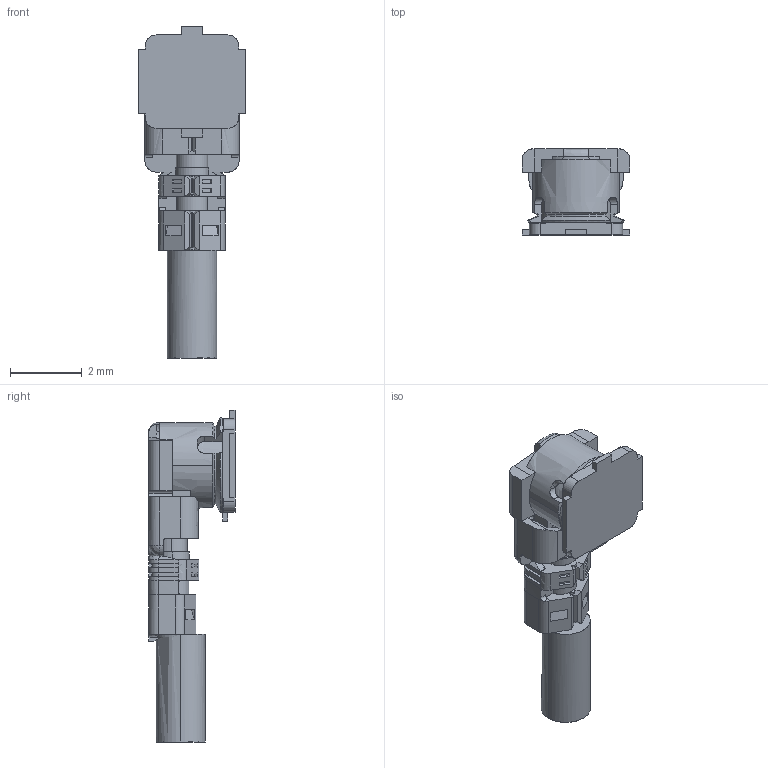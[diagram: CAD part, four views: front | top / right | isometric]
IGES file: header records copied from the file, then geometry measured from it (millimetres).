
Start section: SolidWorks IGES file using analytic representation for surfaces
Global section: file name: C:\3dwork\imaji\00.Web model check\00. New 3D\MHF I\20279-001E-01C+20351-1xxR-37C MATING R9R7 IGES ALL.IGS; native system: SolidWorks 2017; preprocessor: SolidWorks 2017; author: ipxcad-013; date: 180806.115355; units: millimetre
Bounding box: 3 x 2.4 x 9.25 mm (x, y, z)
Surface area: 84.7 mm2 (no closed solid volume)
Topology: 0 solids, 0 shells, 380 faces, 2711 edges, 2707 vertices
Faces by surface type: bspline 280, revolution 100
